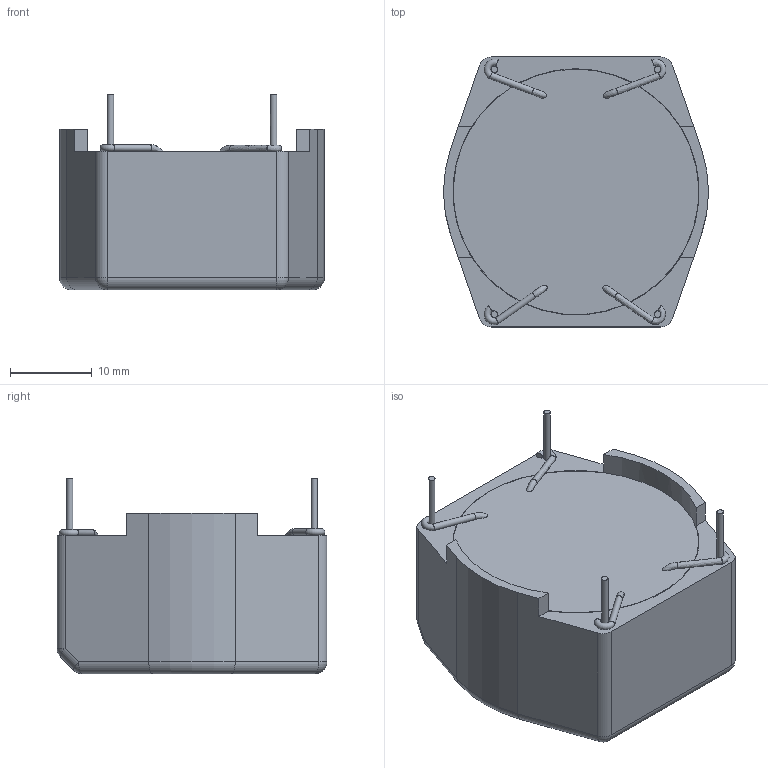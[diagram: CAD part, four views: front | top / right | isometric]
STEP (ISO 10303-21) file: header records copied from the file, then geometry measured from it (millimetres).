
FILE_DESCRIPTION((''),'2;1');
FILE_NAME('D:\_ PRODUCT\New project\3D request\RN142\RN142.stp','2013-06-04T14:39:18',('sayan.penton'),(''),'Autodesk Inventor 2010','Autodesk Inventor 2010','');
FILE_SCHEMA(('AUTOMOTIVE_DESIGN { 1 0 10303 214 1 1 1 1 }'));
Length unit declared in the file: millimetre
Products named in the file (1): Part2
Bounding box: 32.5 x 33.1 x 24 mm (x, y, z)
Volume: 16010.3 mm3; surface area: 4591.6 mm2
Topology: 1 solids, 4 shells, 93 faces, 246 edges, 148 vertices
Faces by surface type: plane 32, cylinder 31, bspline 20, sphere 6, torus 4
Full cylindrical faces by diameter (mm): 0.8 x10, 30.109 x1, 30.2 x1
Entity records: 3600 total; most frequent: CARTESIAN_POINT 1367, DIRECTION 439, ORIENTED_EDGE 438, EDGE_CURVE 219, AXIS2_PLACEMENT_3D 179, VERTEX_POINT 141, EDGE_LOOP 108, CIRCLE 103
